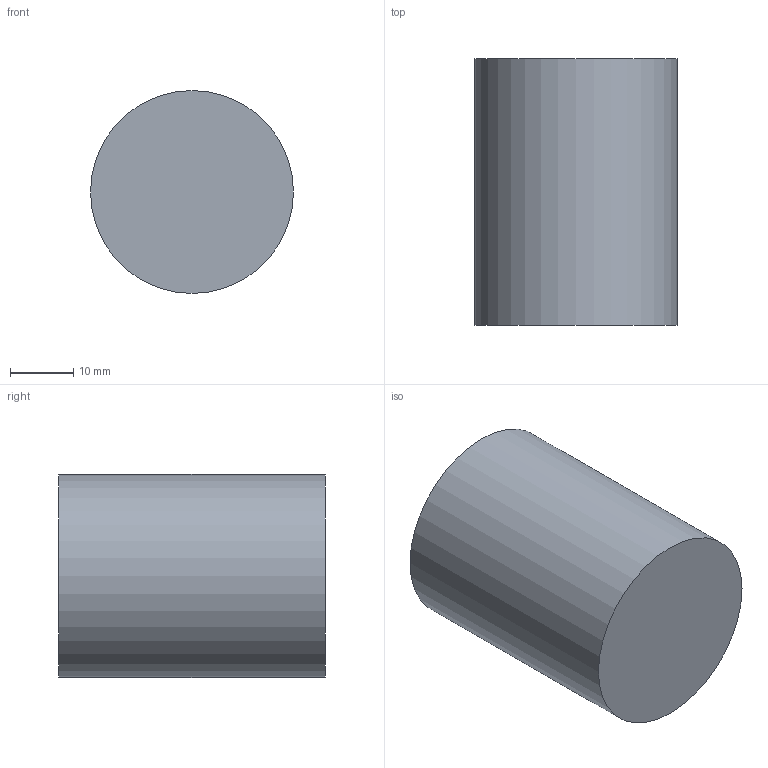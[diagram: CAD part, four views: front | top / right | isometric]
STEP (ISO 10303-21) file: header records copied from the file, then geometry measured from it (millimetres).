
FILE_DESCRIPTION(('Open CASCADE Model'),'2;1');
FILE_NAME('Open CASCADE Shape Model','2026-10-04T01:02:33',('Author'),( 'Open CASCADE'),'Open CASCADE STEP processor 8.0','Open CASCADE 8.0' ,'Unknown');
FILE_SCHEMA(('AUTOMOTIVE_DESIGN { 1 0 10303 214 1 1 1 1 }'));
Length unit declared in the file: millimetre
Products named in the file (1): Open CASCADE STEP translator 8.0 300
Bounding box: 32 x 42 x 32 mm (x, y, z)
Volume: 33778.4 mm3; surface area: 5830.8 mm2
Topology: 1 solids, 1 shells, 3 faces, 3 edges, 2 vertices
Faces by surface type: plane 2, cylinder 1
Full cylindrical faces by diameter (mm): 32 x1
Entity records: 108 total; most frequent: DIRECTION 19, CARTESIAN_POINT 15, AXIS2_PLACEMENT_3D 6, ORIENTED_EDGE 6, PCURVE 6, DEFINITIONAL_REPRESENTATION 6, LINE 5, VECTOR 5
